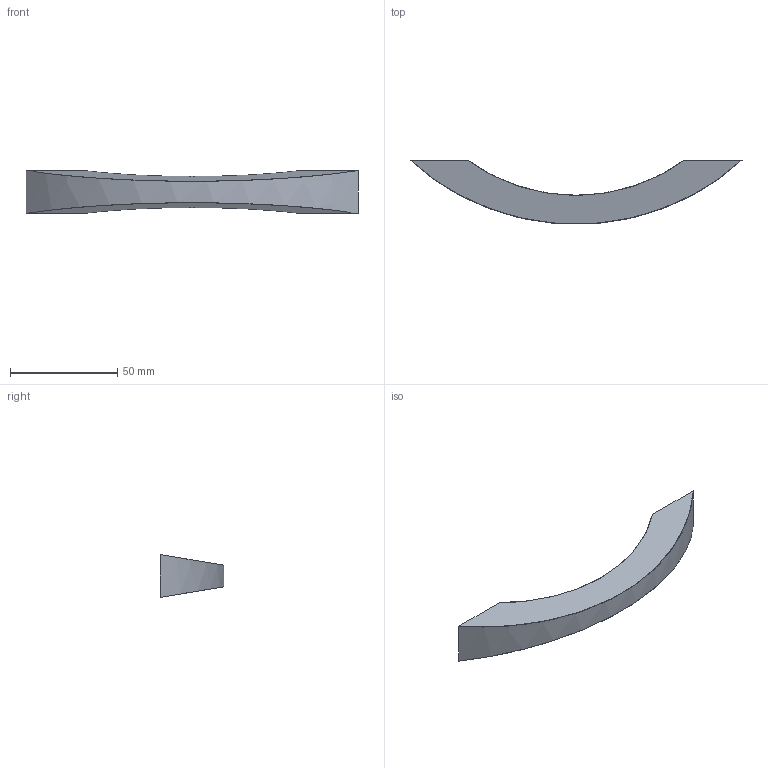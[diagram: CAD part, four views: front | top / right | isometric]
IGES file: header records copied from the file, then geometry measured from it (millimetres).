
Start section: Data from Parasolid IGES Translator 15.0.47, Copyright(c) 2006 Siemens P LM Software. All Rights Reserved.
Global section: file name: 9071718.igs; native system:  By UGS Corp.; preprocessor: XPlus GENERIC/IGES 3.0; author: Noname; organization: Noname; date: 20140122.103037; units: millimetre
Bounding box: 155 x 29.81 x 20 mm (x, y, z)
Surface area: 9446 mm2 (no closed solid volume)
Topology: 0 solids, 0 shells, 10 faces, 36 edges, 34 vertices
Faces by surface type: extrusion 6, revolution 4
